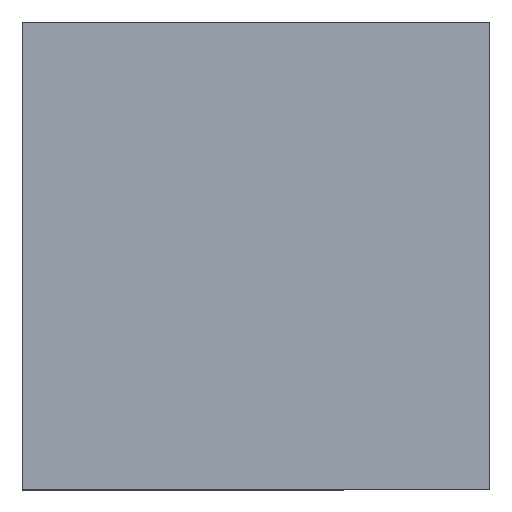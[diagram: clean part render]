
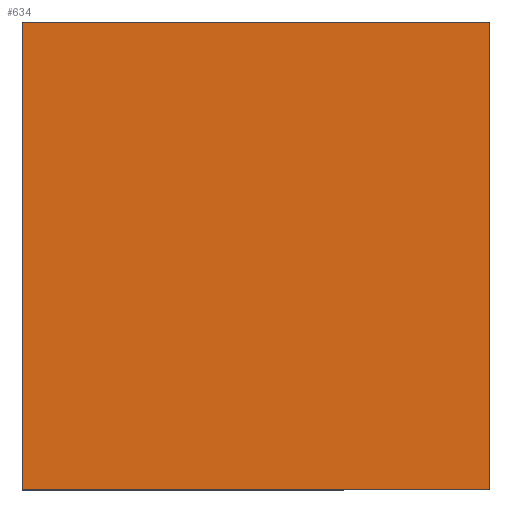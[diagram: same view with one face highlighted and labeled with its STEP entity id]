
A CAD part, top view. The second image highlights one B-rep face of the part: STEP entity #634.
In plain terms, the highlighted planar face has unit normal (0, 0, 1).
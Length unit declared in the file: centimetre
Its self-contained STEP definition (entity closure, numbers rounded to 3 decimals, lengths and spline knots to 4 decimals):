
#34 = VERTEX_POINT ( 'NONE', #35 ) ;
#35 = CARTESIAN_POINT ( 'NONE',  ( 0., 1000., 1000. ) ) ;
#41 = ORIENTED_EDGE ( 'NONE', *, *, #522, .T. ) ;
#81 = EDGE_CURVE ( 'NONE', #393, #34, #289, .T. ) ;
#98 = ORIENTED_EDGE ( 'NONE', *, *, #669, .T. ) ;
#119 = CARTESIAN_POINT ( 'NONE',  ( 0., 1000., 1000. ) ) ;
#147 = ORIENTED_EDGE ( 'NONE', *, *, #81, .T. ) ;
#175 = DIRECTION ( 'NONE',  ( -1., 0., 0. ) ) ;
#176 = LINE ( 'NONE', #239, #523 ) ;
#182 = DIRECTION ( 'NONE',  ( 1., 0., 0. ) ) ;
#215 = VERTEX_POINT ( 'NONE', #428 ) ;
#239 = CARTESIAN_POINT ( 'NONE',  ( 0., 1000., 1000. ) ) ;
#245 = DIRECTION ( 'NONE',  ( 0., 0., 1. ) ) ;
#289 = LINE ( 'NONE', #119, #368 ) ;
#290 = AXIS2_PLACEMENT_3D ( 'NONE', #540, #245, #355 ) ;
#355 = DIRECTION ( 'NONE',  ( 1., 0., 0. ) ) ;
#368 = VECTOR ( 'NONE', #175, 100. ) ;
#393 = VERTEX_POINT ( 'NONE', #584 ) ;
#408 = CARTESIAN_POINT ( 'NONE',  ( 1000., 0., 1000. ) ) ;
#417 = FACE_OUTER_BOUND ( 'NONE', #649, .T. ) ;
#428 = CARTESIAN_POINT ( 'NONE',  ( 0., 0., 1000. ) ) ;
#441 = VERTEX_POINT ( 'NONE', #408 ) ;
#478 = DIRECTION ( 'NONE',  ( 0., 1., 0. ) ) ;
#522 = EDGE_CURVE ( 'NONE', #441, #393, #537, .T. ) ;
#523 = VECTOR ( 'NONE', #657, 100. ) ;
#537 = LINE ( 'NONE', #700, #666 ) ;
#540 = CARTESIAN_POINT ( 'NONE',  ( 0., 0., 1000. ) ) ;
#545 = PLANE ( 'NONE',  #290 ) ;
#584 = CARTESIAN_POINT ( 'NONE',  ( 1000., 1000., 1000. ) ) ;
#585 = EDGE_CURVE ( 'NONE', #215, #441, #601, .T. ) ;
#601 = LINE ( 'NONE', #608, #697 ) ;
#608 = CARTESIAN_POINT ( 'NONE',  ( 0., 0., 1000. ) ) ;
#628 = ORIENTED_EDGE ( 'NONE', *, *, #585, .T. ) ;
#634 = ADVANCED_FACE ( 'NONE', ( #417 ), #545, .T. ) ;
#649 = EDGE_LOOP ( 'NONE', ( #98, #628, #41, #147 ) ) ;
#657 = DIRECTION ( 'NONE',  ( 0., -1., 0. ) ) ;
#666 = VECTOR ( 'NONE', #478, 100. ) ;
#669 = EDGE_CURVE ( 'NONE', #34, #215, #176, .T. ) ;
#697 = VECTOR ( 'NONE', #182, 100. ) ;
#700 = CARTESIAN_POINT ( 'NONE',  ( 1000., 1000., 1000. ) ) ;
